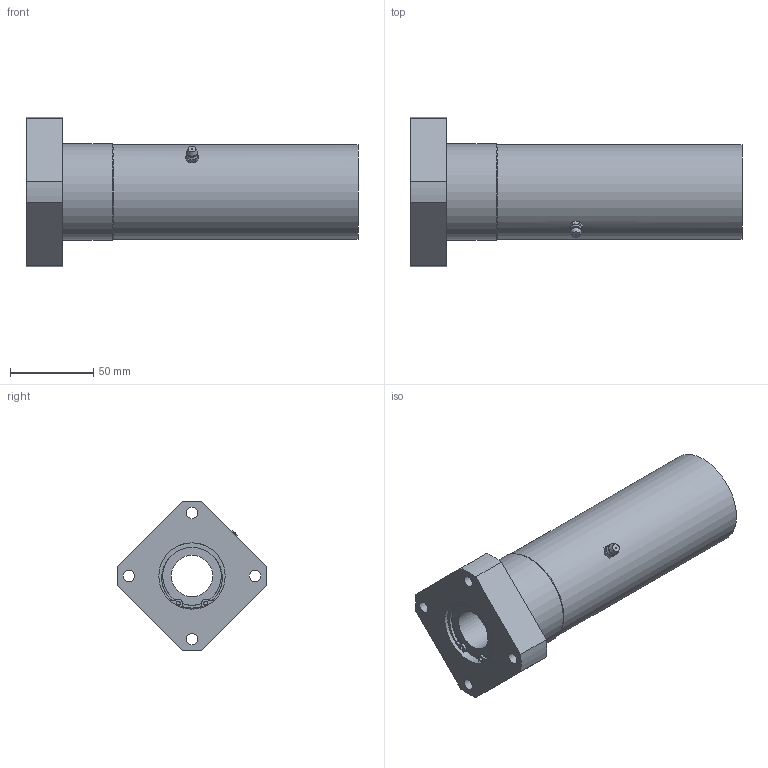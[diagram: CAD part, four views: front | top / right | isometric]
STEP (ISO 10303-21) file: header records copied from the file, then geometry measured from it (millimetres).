
FILE_DESCRIPTION((''),'2;1');
FILE_NAME('D:\製品 (図面)\カタログ用3D\リニアベアリング関連(改)\STEP形式\LFWL\LFWL25A.stp','2010-01-22T16:34:07',('Tsuchiya'),(''),'Autodesk Inventor 10','Autodesk Inventor 10','');
FILE_SCHEMA(('AUTOMOTIVE_DESIGN { 1 0 10303 214 1 1 1 1 }'));
Length unit declared in the file: millimetre
Products named in the file (1): LFWL25A
Bounding box: 200 x 89.9 x 89.9 mm (x, y, z)
Volume: 459544.7 mm3; surface area: 71405.6 mm2
Topology: 1 solids, 7 shells, 114 faces, 286 edges, 177 vertices
Faces by surface type: bspline 36, plane 35, cylinder 31, cone 8, sphere 2, torus 2
Full cylindrical faces by diameter (mm): 2.5 x2, 7 x4, 25 x2, 35.3 x2, 38 x2, 40 x8, 57 x1, 58 x1
Entity records: 3503 total; most frequent: CARTESIAN_POINT 999, DIRECTION 534, ORIENTED_EDGE 452, AXIS2_PLACEMENT_3D 241, EDGE_CURVE 226, EDGE_LOOP 188, VERTEX_POINT 158, CIRCLE 158
